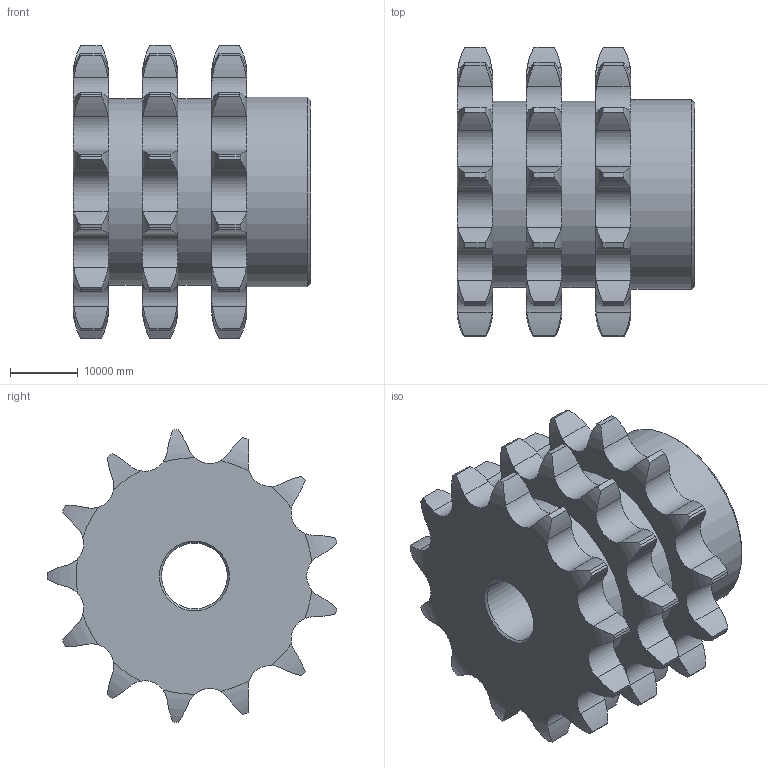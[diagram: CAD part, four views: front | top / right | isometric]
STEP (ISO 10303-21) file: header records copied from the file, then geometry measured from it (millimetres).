
FILE_DESCRIPTION(/* description */ (''),/* implementation_level */ '2;1');
FILE_NAME(/* name */ 'C:\Users\stagistaCAD\Desktop\10309013.stp',/* time_stamp */ '2018-06-12T10:25:38+02:00',/* author */ ('stagistacad'),/* organization */ (''),/* preprocessor_version */ 'ST-DEVELOPER v15.6',/* originating_system */ 'Autodesk Inventor 2015',/* authorisation */ '');
FILE_SCHEMA (('AUTOMOTIVE_DESIGN { 1 0 10303 214 3 1 1 }'));
Length unit declared in the file: millimetre
Products named in the file (1): 10309013
Bounding box: 35000 x 42726.36 x 43186.46 mm (x, y, z)
Volume: 25690070183008.1 mm3; surface area: 9294579934.9 mm2
Topology: 1 solids, 1 shells, 260 faces, 756 edges, 503 vertices
Faces by surface type: cylinder 172, torus 78, plane 7, cone 3
Full cylindrical faces by diameter (mm): 9700 x1, 27450 x2, 28000 x1
Entity records: 10914 total; most frequent: CARTESIAN_POINT 4573, ORIENTED_EDGE 1498, DIRECTION 1108, EDGE_CURVE 749, VERTEX_POINT 503, AXIS2_PLACEMENT_3D 470, B_SPLINE_CURVE_WITH_KNOTS 372, EDGE_LOOP 274
